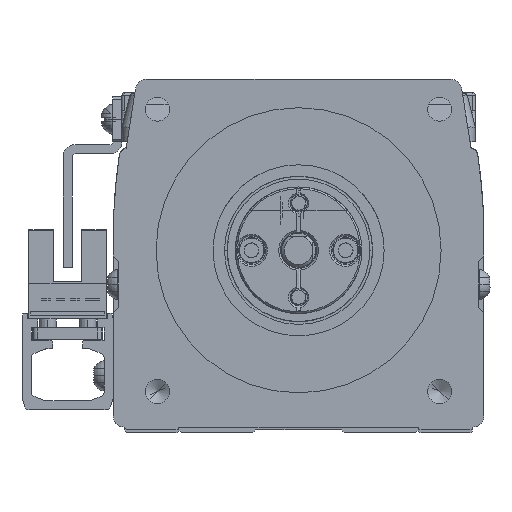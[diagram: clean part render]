
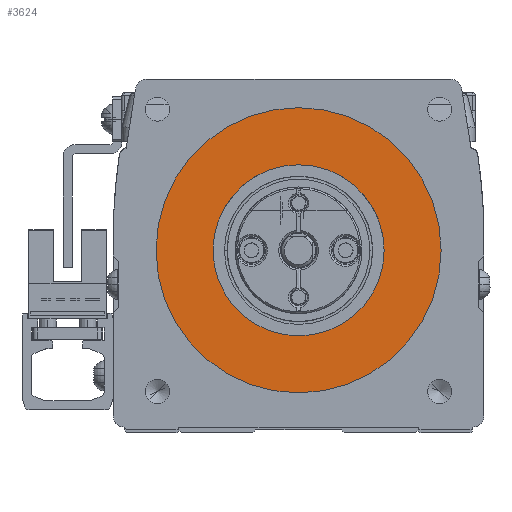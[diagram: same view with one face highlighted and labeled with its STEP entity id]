
A CAD part, left-side view. The second image highlights one B-rep face of the part: STEP entity #3624.
In plain terms, the highlighted planar face has unit normal (-1, 0, 0).
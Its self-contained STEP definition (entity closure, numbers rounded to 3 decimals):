
#3624=ADVANCED_FACE('',(#6516,#6517),#6518,.F.);
#6516=FACE_BOUND('',#12600,.T.);
#6517=FACE_OUTER_BOUND('',#12601,.T.);
#6518=PLANE('',#12602);
#12600=EDGE_LOOP('',(#20919,#20920));
#12601=EDGE_LOOP('',(#20921,#20922));
#12602=AXIS2_PLACEMENT_3D('',#20923,#20924,#20925);
#20919=ORIENTED_EDGE('',*,*,#43713,.T.);
#20920=ORIENTED_EDGE('',*,*,#43811,.T.);
#20921=ORIENTED_EDGE('',*,*,#43844,.T.);
#20922=ORIENTED_EDGE('',*,*,#43705,.T.);
#20923=CARTESIAN_POINT('',(-76.5,0.,0.));
#20924=DIRECTION('',(1.0,0.,0.));
#20925=DIRECTION('',(0.,1.0,0.));
#43705=EDGE_CURVE('',#51104,#51101,#51105,.T.);
#43713=EDGE_CURVE('',#51118,#51115,#51119,.T.);
#43811=EDGE_CURVE('',#51115,#51118,#51280,.T.);
#43844=EDGE_CURVE('',#51101,#51104,#51337,.T.);
#51101=VERTEX_POINT('',#63337);
#51104=VERTEX_POINT('',#63341);
#51105=CIRCLE('',#63342,25.0);
#51115=VERTEX_POINT('',#63377);
#51118=VERTEX_POINT('',#63381);
#51119=CIRCLE('',#63382,15.0);
#51280=CIRCLE('',#63664,15.0);
#51337=CIRCLE('',#63800,25.0);
#63337=CARTESIAN_POINT('',(-76.5,25.,0.));
#63341=CARTESIAN_POINT('',(-76.5,-25.,0.));
#63342=AXIS2_PLACEMENT_3D('',#82027,#82028,#82029);
#63377=CARTESIAN_POINT('',(-76.5,15.0,0.));
#63381=CARTESIAN_POINT('',(-76.5,-15.,0.));
#63382=AXIS2_PLACEMENT_3D('',#82037,#82038,#82039);
#63664=AXIS2_PLACEMENT_3D('',#82197,#82198,#82199);
#63800=AXIS2_PLACEMENT_3D('',#82254,#82255,#82256);
#82027=CARTESIAN_POINT('',(-76.5,0.,0.));
#82028=DIRECTION('',(-1.0,0.,0.));
#82029=DIRECTION('',(0.,1.0,0.));
#82037=CARTESIAN_POINT('',(-76.5,0.,0.));
#82038=DIRECTION('',(1.0,0.,0.));
#82039=DIRECTION('',(0.,1.0,0.));
#82197=CARTESIAN_POINT('',(-76.5,0.,0.));
#82198=DIRECTION('',(1.0,0.,0.));
#82199=DIRECTION('',(0.,1.0,0.));
#82254=CARTESIAN_POINT('',(-76.5,0.,0.));
#82255=DIRECTION('',(-1.0,0.,0.));
#82256=DIRECTION('',(0.,1.0,0.));
